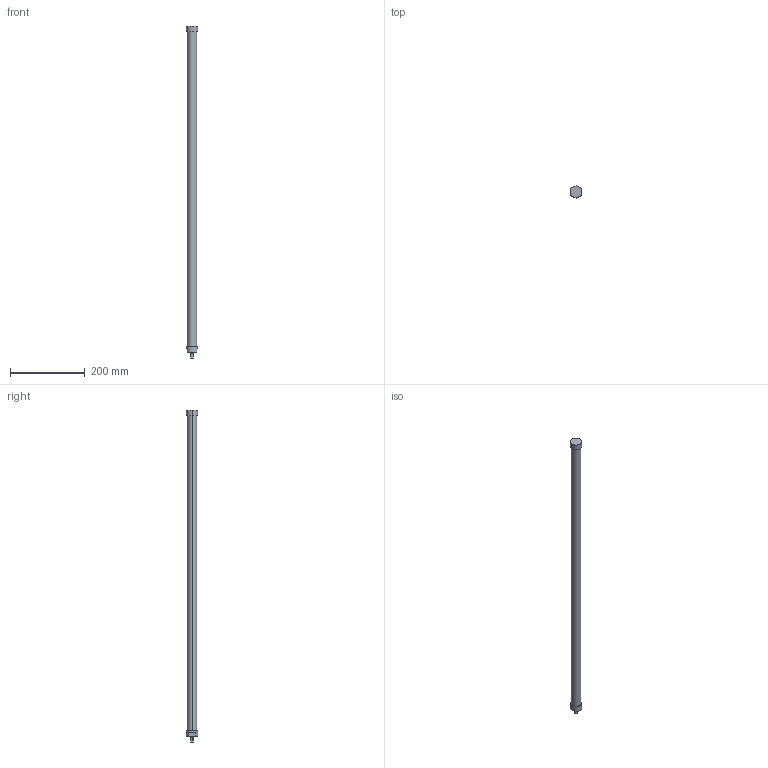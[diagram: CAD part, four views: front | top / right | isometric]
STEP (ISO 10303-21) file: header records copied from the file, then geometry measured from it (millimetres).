
FILE_DESCRIPTION(('STEP AP214'),'1');
FILE_NAME('ETT-R050M884.stp','2015-07-20T07:59:34',(' '),(' '),'Spatial InterOp 3D',' ',' ');
FILE_SCHEMA(('automotive_design'));
Length unit declared in the file: metre
Products named in the file (2): 1; 2
Bounding box: 31 x 31 x 889 mm (x, y, z)
Volume: 437122.1 mm3; surface area: 71880.8 mm2
Topology: 1 solids, 4 shells, 20 faces, 48 edges, 36 vertices
Faces by surface type: cylinder 10, plane 10
Entity records: 812 total; most frequent: DIRECTION 120, CARTESIAN_POINT 106, ORIENTED_EDGE 84, AXIS2_PLACEMENT_3D 50, EDGE_CURVE 48, VERTEX_POINT 36, CIRCLE 28, EDGE_LOOP 24
